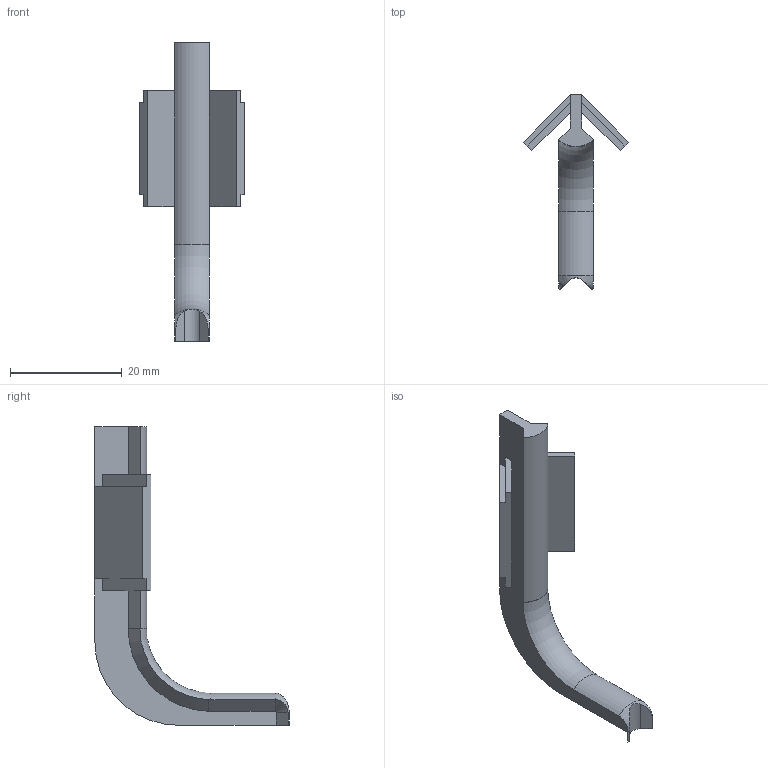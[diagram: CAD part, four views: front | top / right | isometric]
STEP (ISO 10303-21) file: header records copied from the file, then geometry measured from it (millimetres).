
FILE_DESCRIPTION( ( 'STEP AP214' ), '1' );
FILE_NAME( 'C:/Users/swati/Desktop/10-03-2016/15-03-2016/9210133.stp', ' ', ( ' ' ), ( ' ' ), 'PSStep 15.0.47', 'PARTsolutions', ' ' );
FILE_SCHEMA( ( 'AUTOMOTIVE_DESIGN { 1 0 10303 214 1 1 1 1 }' ) );
Length unit declared in the file: millimetre
Products named in the file (2): 95 ; _
Assembly tree (1 placements, depth 2):
  95 
    _
Bounding box: 18.97 x 34.8 x 53.5 mm (x, y, z)
Volume: 2627.1 mm3; surface area: 2856.3 mm2
Topology: 1 solids, 1 shells, 53 faces, 139 edges, 88 vertices
Faces by surface type: plane 39, cylinder 8, cone 4, torus 1, bspline 1
Entity records: 2126 total; most frequent: CARTESIAN_POINT 356, ORIENTED_EDGE 278, DIRECTION 267, EDGE_CURVE 139, LINE 105, VECTOR 105, VERTEX_POINT 88, AXIS2_PLACEMENT_3D 81
